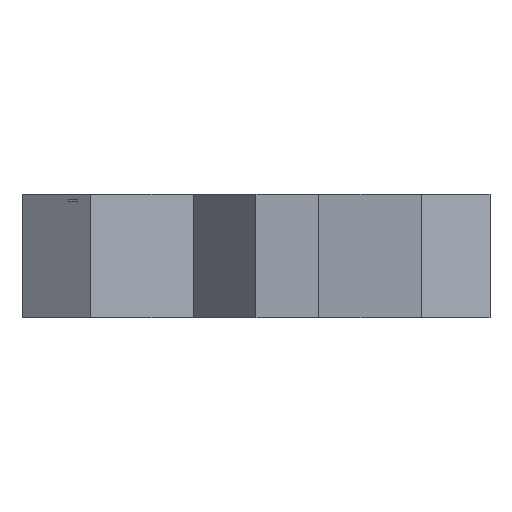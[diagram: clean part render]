
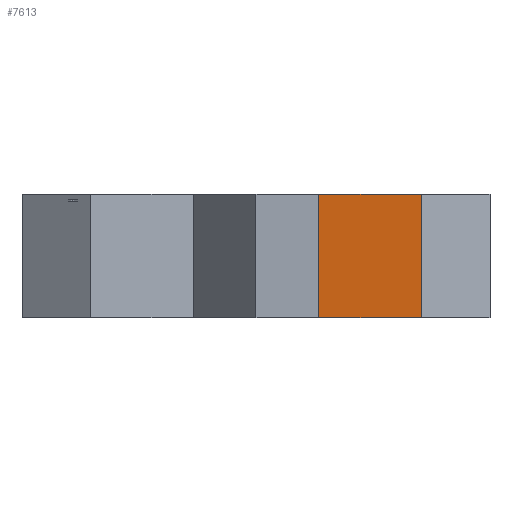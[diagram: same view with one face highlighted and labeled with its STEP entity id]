
A CAD part, left-side view. The second image highlights one B-rep face of the part: STEP entity #7613.
In plain terms, the highlighted planar face has unit normal (-0.991, 0.136, 0).
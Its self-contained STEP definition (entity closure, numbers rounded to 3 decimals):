
#125 = PLANE('',#126);
#126 = AXIS2_PLACEMENT_3D('',#127,#128,#129);
#127 = CARTESIAN_POINT('',(0.,0.,66.));
#128 = DIRECTION('',(0.,0.,1.));
#129 = DIRECTION('',(1.,0.,-0.));
#337 = PLANE('',#338);
#338 = AXIS2_PLACEMENT_3D('',#339,#340,#341);
#339 = CARTESIAN_POINT('',(0.,0.,0.));
#340 = DIRECTION('',(0.,0.,1.));
#341 = DIRECTION('',(1.,0.,-0.));
#370 = PLANE('',#371);
#371 = AXIS2_PLACEMENT_3D('',#372,#373,#374);
#372 = CARTESIAN_POINT('',(-88.388,-88.388,63.));
#373 = DIRECTION('',(-0.136,0.991,0.));
#374 = DIRECTION('',(0.991,0.136,0.));
#1162 = VERTEX_POINT('',#1163);
#1163 = CARTESIAN_POINT('',(-80.839,-33.485,66.));
#1177 = PLANE('',#1178);
#1178 = AXIS2_PLACEMENT_3D('',#1179,#1180,#1181);
#1179 = CARTESIAN_POINT('',(-125.,0.,63.));
#1180 = DIRECTION('',(0.604,0.797,-0.));
#1181 = DIRECTION('',(0.797,-0.604,0.));
#1189 = EDGE_CURVE('',#1162,#1190,#1192,.T.);
#1190 = VERTEX_POINT('',#1191);
#1191 = CARTESIAN_POINT('',(-88.388,-88.388,66.));
#1192 = SURFACE_CURVE('',#1193,(#1197,#1204),.PCURVE_S1.);
#1193 = LINE('',#1194,#1195);
#1194 = CARTESIAN_POINT('',(-80.839,-33.485,66.));
#1195 = VECTOR('',#1196,1.);
#1196 = DIRECTION('',(-0.136,-0.991,0.));
#1197 = PCURVE('',#125,#1198);
#1198 = DEFINITIONAL_REPRESENTATION('',(#1199),#1203);
#1199 = LINE('',#1200,#1201);
#1200 = CARTESIAN_POINT('',(-80.839,-33.485));
#1201 = VECTOR('',#1202,1.);
#1202 = DIRECTION('',(-0.136,-0.991));
#1203 = ( GEOMETRIC_REPRESENTATION_CONTEXT(2) 
PARAMETRIC_REPRESENTATION_CONTEXT() REPRESENTATION_CONTEXT('2D SPACE',''
  ) );
#1204 = PCURVE('',#1205,#1210);
#1205 = PLANE('',#1206);
#1206 = AXIS2_PLACEMENT_3D('',#1207,#1208,#1209);
#1207 = CARTESIAN_POINT('',(-80.839,-33.485,63.));
#1208 = DIRECTION('',(0.991,-0.136,0.));
#1209 = DIRECTION('',(-0.136,-0.991,0.));
#1210 = DEFINITIONAL_REPRESENTATION('',(#1211),#1215);
#1211 = LINE('',#1212,#1213);
#1212 = CARTESIAN_POINT('',(0.,-3.));
#1213 = VECTOR('',#1214,1.);
#1214 = DIRECTION('',(1.,0.));
#1215 = ( GEOMETRIC_REPRESENTATION_CONTEXT(2) 
PARAMETRIC_REPRESENTATION_CONTEXT() REPRESENTATION_CONTEXT('2D SPACE',''
  ) );
#6208 = EDGE_CURVE('',#1190,#6209,#6211,.T.);
#6209 = VERTEX_POINT('',#6210);
#6210 = CARTESIAN_POINT('',(-88.388,-88.388,0.));
#6211 = SURFACE_CURVE('',#6212,(#6216,#6223),.PCURVE_S1.);
#6212 = LINE('',#6213,#6214);
#6213 = CARTESIAN_POINT('',(-88.388,-88.388,66.));
#6214 = VECTOR('',#6215,1.);
#6215 = DIRECTION('',(0.,0.,-1.));
#6216 = PCURVE('',#370,#6217);
#6217 = DEFINITIONAL_REPRESENTATION('',(#6218),#6222);
#6218 = LINE('',#6219,#6220);
#6219 = CARTESIAN_POINT('',(0.,-3.));
#6220 = VECTOR('',#6221,1.);
#6221 = DIRECTION('',(0.,1.));
#6222 = ( GEOMETRIC_REPRESENTATION_CONTEXT(2) 
PARAMETRIC_REPRESENTATION_CONTEXT() REPRESENTATION_CONTEXT('2D SPACE',''
  ) );
#6223 = PCURVE('',#1205,#6224);
#6224 = DEFINITIONAL_REPRESENTATION('',(#6225),#6229);
#6225 = LINE('',#6226,#6227);
#6226 = CARTESIAN_POINT('',(55.42,-3.));
#6227 = VECTOR('',#6228,1.);
#6228 = DIRECTION('',(-0.,1.));
#6229 = ( GEOMETRIC_REPRESENTATION_CONTEXT(2) 
PARAMETRIC_REPRESENTATION_CONTEXT() REPRESENTATION_CONTEXT('2D SPACE',''
  ) );
#6749 = VERTEX_POINT('',#6750);
#6750 = CARTESIAN_POINT('',(-80.839,-33.485,0.));
#6771 = EDGE_CURVE('',#6749,#6209,#6772,.T.);
#6772 = SURFACE_CURVE('',#6773,(#6777,#6784),.PCURVE_S1.);
#6773 = LINE('',#6774,#6775);
#6774 = CARTESIAN_POINT('',(-80.839,-33.485,0.));
#6775 = VECTOR('',#6776,1.);
#6776 = DIRECTION('',(-0.136,-0.991,0.));
#6777 = PCURVE('',#337,#6778);
#6778 = DEFINITIONAL_REPRESENTATION('',(#6779),#6783);
#6779 = LINE('',#6780,#6781);
#6780 = CARTESIAN_POINT('',(-80.839,-33.485));
#6781 = VECTOR('',#6782,1.);
#6782 = DIRECTION('',(-0.136,-0.991));
#6783 = ( GEOMETRIC_REPRESENTATION_CONTEXT(2) 
PARAMETRIC_REPRESENTATION_CONTEXT() REPRESENTATION_CONTEXT('2D SPACE',''
  ) );
#6784 = PCURVE('',#1205,#6785);
#6785 = DEFINITIONAL_REPRESENTATION('',(#6786),#6790);
#6786 = LINE('',#6787,#6788);
#6787 = CARTESIAN_POINT('',(-0.,63.));
#6788 = VECTOR('',#6789,1.);
#6789 = DIRECTION('',(1.,0.));
#6790 = ( GEOMETRIC_REPRESENTATION_CONTEXT(2) 
PARAMETRIC_REPRESENTATION_CONTEXT() REPRESENTATION_CONTEXT('2D SPACE',''
  ) );
#7613 = ADVANCED_FACE('',(#7614),#1205,.F.);
#7614 = FACE_BOUND('',#7615,.F.);
#7615 = EDGE_LOOP('',(#7616,#7637,#7638,#7639));
#7616 = ORIENTED_EDGE('',*,*,#7617,.F.);
#7617 = EDGE_CURVE('',#1162,#6749,#7618,.T.);
#7618 = SURFACE_CURVE('',#7619,(#7623,#7630),.PCURVE_S1.);
#7619 = LINE('',#7620,#7621);
#7620 = CARTESIAN_POINT('',(-80.839,-33.485,66.));
#7621 = VECTOR('',#7622,1.);
#7622 = DIRECTION('',(0.,0.,-1.));
#7623 = PCURVE('',#1205,#7624);
#7624 = DEFINITIONAL_REPRESENTATION('',(#7625),#7629);
#7625 = LINE('',#7626,#7627);
#7626 = CARTESIAN_POINT('',(0.,-3.));
#7627 = VECTOR('',#7628,1.);
#7628 = DIRECTION('',(-0.,1.));
#7629 = ( GEOMETRIC_REPRESENTATION_CONTEXT(2) 
PARAMETRIC_REPRESENTATION_CONTEXT() REPRESENTATION_CONTEXT('2D SPACE',''
  ) );
#7630 = PCURVE('',#1177,#7631);
#7631 = DEFINITIONAL_REPRESENTATION('',(#7632),#7636);
#7632 = LINE('',#7633,#7634);
#7633 = CARTESIAN_POINT('',(55.42,-3.));
#7634 = VECTOR('',#7635,1.);
#7635 = DIRECTION('',(0.,1.));
#7636 = ( GEOMETRIC_REPRESENTATION_CONTEXT(2) 
PARAMETRIC_REPRESENTATION_CONTEXT() REPRESENTATION_CONTEXT('2D SPACE',''
  ) );
#7637 = ORIENTED_EDGE('',*,*,#1189,.T.);
#7638 = ORIENTED_EDGE('',*,*,#6208,.T.);
#7639 = ORIENTED_EDGE('',*,*,#6771,.F.);
